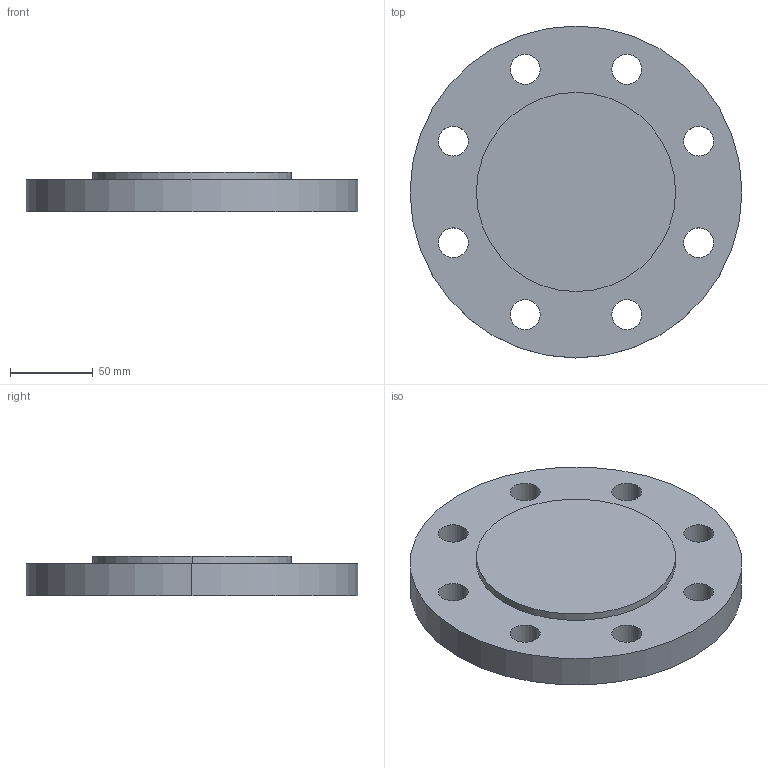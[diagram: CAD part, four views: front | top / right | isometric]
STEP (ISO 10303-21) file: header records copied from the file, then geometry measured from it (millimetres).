
FILE_DESCRIPTION (( 'STEP AP214' ), '1' );
FILE_NAME ('PN40 DN80 Type 05 - Type E Face.STEP', '2019-01-01T19:44:23', ( '' ), ( '' ), 'SwSTEP 2.0', 'SolidWorks 2019', '' );
FILE_SCHEMA (( 'AUTOMOTIVE_DESIGN' ));
Length unit declared in the file: millimetre
Products named in the file (1): PN40 DN80 Type 05 - Type E Face
Bounding box: 200 x 200 x 24 mm (x, y, z)
Volume: 623807.2 mm3; surface area: 81530.6 mm2
Topology: 1 solids, 1 shells, 23 faces, 60 edges, 40 vertices
Faces by surface type: cylinder 20, plane 3
Entity records: 800 total; most frequent: DIRECTION 148, CARTESIAN_POINT 124, ORIENTED_EDGE 120, AXIS2_PLACEMENT_3D 64, EDGE_CURVE 60, CIRCLE 40, VERTEX_POINT 40, EDGE_LOOP 40
